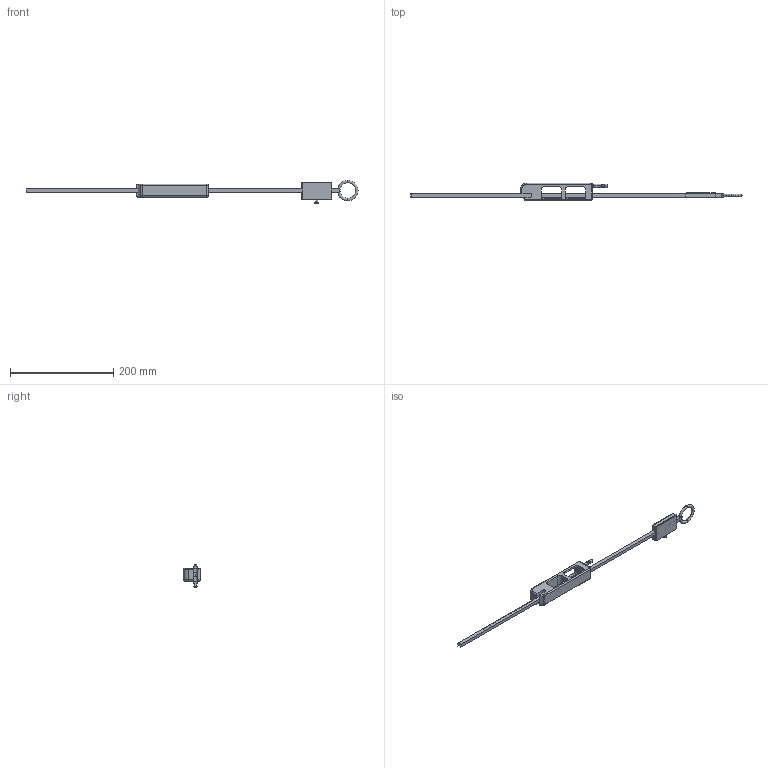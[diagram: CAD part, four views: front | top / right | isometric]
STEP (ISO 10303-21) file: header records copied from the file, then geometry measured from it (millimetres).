
FILE_DESCRIPTION (( 'STEP AP203' ), '1' );
FILE_NAME ('Forge Gauge on Guide Rod.STEP', '2017-04-18T15:25:26', ( '' ), ( '' ), 'SwSTEP 2.0', 'SolidWorks 2017', '' );
FILE_SCHEMA (( 'CONFIG_CONTROL_DESIGN' ));
Length unit declared in the file: inch
Products named in the file (9): pan cross head_ai_CR-PHMS 0.164-32x0.75x0.75-N; Inclinometer Stage; Forge Gauge on Guide Rod; LATCH F Tool Slider IIHS REV; Guide Rod; Conn Plug F Tool_Cosmetic Thread; Inclin Stage side rib_Threaded; Inclin Stage side rib; Inclin Stage plate
Assembly tree (9 placements, depth 3):
  Forge Gauge on Guide Rod
    LATCH F Tool Slider IIHS REV
    Guide Rod
    Conn Plug F Tool_Cosmetic Thread
    Inclinometer Stage
      Inclin Stage side rib_Threaded
      Inclin Stage side rib
      Inclin Stage plate  x2
      pan cross head_ai_CR-PHMS 0.164-32x0.75x0.75-N
Bounding box: 642.83 x 33.78 x 44.93 mm (x, y, z)
Volume: 102816 mm3; surface area: 51901.5 mm2
Topology: 9 solids, 9 shells, 246 faces, 617 edges, 390 vertices
Faces by surface type: plane 125, cylinder 81, torus 24, cone 14, sphere 2
Entity records: 8552 total; most frequent: CARTESIAN_POINT 1634, DIRECTION 1299, ORIENTED_EDGE 1210, EDGE_CURVE 605, AXIS2_PLACEMENT_3D 473, VERTEX_POINT 382, VECTOR 353, LINE 353
